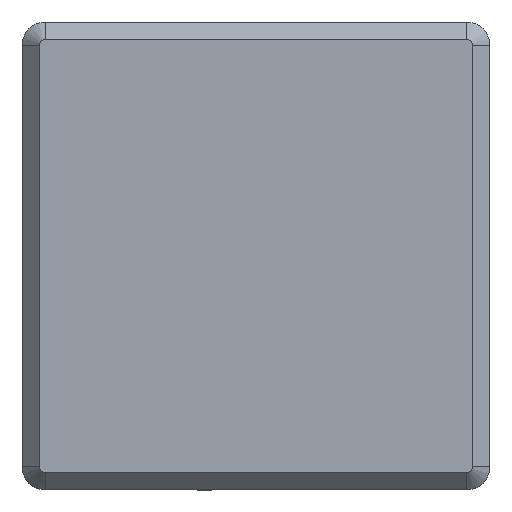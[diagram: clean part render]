
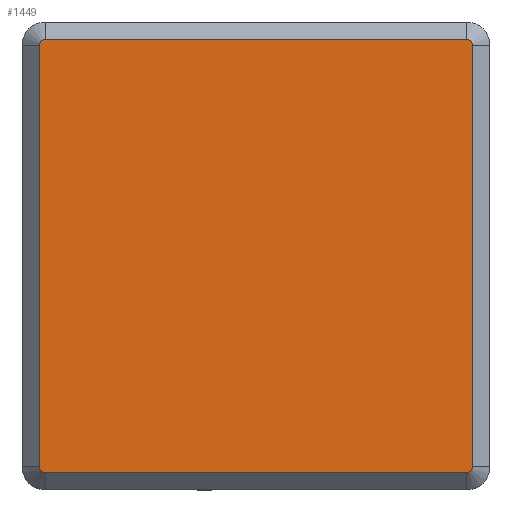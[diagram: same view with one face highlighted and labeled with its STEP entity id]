
A CAD part, top view. The second image highlights one B-rep face of the part: STEP entity #1449.
In plain terms, the highlighted planar face has unit normal (0, 0, 1).
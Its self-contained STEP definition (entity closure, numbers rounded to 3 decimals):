
#26 = CARTESIAN_POINT ( 'NONE',  ( 9.05, -9.05, 3. ) ) ;
#39 = DIRECTION ( 'NONE',  ( 0., 0., 1. ) ) ;
#183 = DIRECTION ( 'NONE',  ( 0., 0., 1. ) ) ;
#199 = EDGE_CURVE ( 'NONE', #1424, #2121, #596, .T. ) ;
#202 = AXIS2_PLACEMENT_3D ( 'NONE', #1614, #39, #739 ) ;
#225 = DIRECTION ( 'NONE',  ( -1., 0., 0. ) ) ;
#274 = ORIENTED_EDGE ( 'NONE', *, *, #1568, .T. ) ;
#279 = CARTESIAN_POINT ( 'NONE',  ( 9.3, 0., 3. ) ) ;
#348 = DIRECTION ( 'NONE',  ( -1., 0., 0. ) ) ;
#353 = CIRCLE ( 'NONE', #1626, 0.25 ) ;
#403 = CARTESIAN_POINT ( 'NONE',  ( 9.05, -9.3, 3. ) ) ;
#458 = EDGE_CURVE ( 'NONE', #2121, #719, #1307, .T. ) ;
#479 = PLANE ( 'NONE',  #1459 ) ;
#512 = CARTESIAN_POINT ( 'NONE',  ( -9.3, -9.05, 3. ) ) ;
#531 = DIRECTION ( 'NONE',  ( 0., 0., -1. ) ) ;
#584 = CARTESIAN_POINT ( 'NONE',  ( -9.05, -9.05, 3. ) ) ;
#596 = LINE ( 'NONE', #279, #666 ) ;
#625 = DIRECTION ( 'NONE',  ( 1., 0., 0. ) ) ;
#645 = CIRCLE ( 'NONE', #828, 0.25 ) ;
#666 = VECTOR ( 'NONE', #1295, 1000. ) ;
#697 = VERTEX_POINT ( 'NONE', #2125 ) ;
#716 = VERTEX_POINT ( 'NONE', #1363 ) ;
#719 = VERTEX_POINT ( 'NONE', #2061 ) ;
#725 = CIRCLE ( 'NONE', #2225, 0.25 ) ;
#733 = DIRECTION ( 'NONE',  ( 0., 0., 1. ) ) ;
#739 = DIRECTION ( 'NONE',  ( -1., 0., 0. ) ) ;
#799 = VERTEX_POINT ( 'NONE', #512 ) ;
#800 = DIRECTION ( 'NONE',  ( -1., 0., 0. ) ) ;
#804 = ORIENTED_EDGE ( 'NONE', *, *, #1790, .T. ) ;
#819 = FACE_OUTER_BOUND ( 'NONE', #1017, .T. ) ;
#828 = AXIS2_PLACEMENT_3D ( 'NONE', #584, #1794, #1098 ) ;
#838 = CARTESIAN_POINT ( 'NONE',  ( 9.3, -9.05, 3. ) ) ;
#869 = VECTOR ( 'NONE', #1604, 1000. ) ;
#995 = VERTEX_POINT ( 'NONE', #403 ) ;
#1016 = ORIENTED_EDGE ( 'NONE', *, *, #2063, .T. ) ;
#1017 = EDGE_LOOP ( 'NONE', ( #1016, #2170, #1194, #1997, #274, #1313, #804, #2046 ) ) ;
#1098 = DIRECTION ( 'NONE',  ( -1., 0., 0. ) ) ;
#1103 = CARTESIAN_POINT ( 'NONE',  ( -9.05, 9.05, 3. ) ) ;
#1187 = EDGE_CURVE ( 'NONE', #719, #716, #2195, .T. ) ;
#1194 = ORIENTED_EDGE ( 'NONE', *, *, #458, .T. ) ;
#1226 = DIRECTION ( 'NONE',  ( -1., 0., 0. ) ) ;
#1295 = DIRECTION ( 'NONE',  ( 0., 1., 0. ) ) ;
#1307 = CIRCLE ( 'NONE', #202, 0.25 ) ;
#1313 = ORIENTED_EDGE ( 'NONE', *, *, #2048, .T. ) ;
#1345 = CARTESIAN_POINT ( 'NONE',  ( 0., 0., 3. ) ) ;
#1363 = CARTESIAN_POINT ( 'NONE',  ( -9.05, 9.3, 3. ) ) ;
#1424 = VERTEX_POINT ( 'NONE', #838 ) ;
#1449 = ADVANCED_FACE ( 'NONE', ( #819 ), #479, .F. ) ;
#1459 = AXIS2_PLACEMENT_3D ( 'NONE', #1345, #531, #1226 ) ;
#1488 = LINE ( 'NONE', #2190, #1591 ) ;
#1568 = EDGE_CURVE ( 'NONE', #716, #1815, #353, .T. ) ;
#1591 = VECTOR ( 'NONE', #625, 1000. ) ;
#1604 = DIRECTION ( 'NONE',  ( 0., -1., 0. ) ) ;
#1614 = CARTESIAN_POINT ( 'NONE',  ( 9.05, 9.05, 3. ) ) ;
#1626 = AXIS2_PLACEMENT_3D ( 'NONE', #1103, #733, #225 ) ;
#1779 = LINE ( 'NONE', #1911, #869 ) ;
#1790 = EDGE_CURVE ( 'NONE', #799, #697, #645, .T. ) ;
#1794 = DIRECTION ( 'NONE',  ( 0., 0., 1. ) ) ;
#1815 = VERTEX_POINT ( 'NONE', #1979 ) ;
#1874 = EDGE_CURVE ( 'NONE', #697, #995, #1488, .T. ) ;
#1911 = CARTESIAN_POINT ( 'NONE',  ( -9.3, 0., 3. ) ) ;
#1957 = VECTOR ( 'NONE', #800, 1000. ) ;
#1979 = CARTESIAN_POINT ( 'NONE',  ( -9.3, 9.05, 3. ) ) ;
#1997 = ORIENTED_EDGE ( 'NONE', *, *, #1187, .T. ) ;
#2020 = CARTESIAN_POINT ( 'NONE',  ( 0., 9.3, 3. ) ) ;
#2046 = ORIENTED_EDGE ( 'NONE', *, *, #1874, .T. ) ;
#2048 = EDGE_CURVE ( 'NONE', #1815, #799, #1779, .T. ) ;
#2061 = CARTESIAN_POINT ( 'NONE',  ( 9.05, 9.3, 3. ) ) ;
#2063 = EDGE_CURVE ( 'NONE', #995, #1424, #725, .T. ) ;
#2121 = VERTEX_POINT ( 'NONE', #2123 ) ;
#2123 = CARTESIAN_POINT ( 'NONE',  ( 9.3, 9.05, 3. ) ) ;
#2125 = CARTESIAN_POINT ( 'NONE',  ( -9.05, -9.3, 3. ) ) ;
#2170 = ORIENTED_EDGE ( 'NONE', *, *, #199, .T. ) ;
#2190 = CARTESIAN_POINT ( 'NONE',  ( 0., -9.3, 3. ) ) ;
#2195 = LINE ( 'NONE', #2020, #1957 ) ;
#2225 = AXIS2_PLACEMENT_3D ( 'NONE', #26, #183, #348 ) ;
